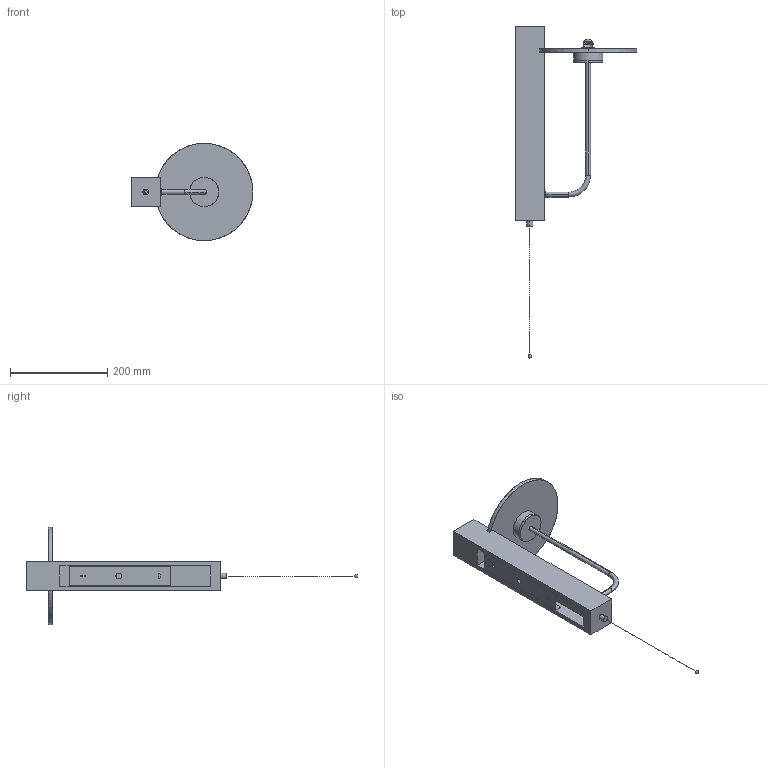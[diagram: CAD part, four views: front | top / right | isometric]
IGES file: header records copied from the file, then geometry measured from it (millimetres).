
Start section: SolidWorks IGES file using analytic representation for surfaces
Global section: file name: F:\燠隴矨\3D\2025-11\Aura Arm Wall Lamp-D20xH40cm.IGS,15; native system: HSolidWorks 2022; preprocessor: SolidWorks 2022; author: MyPC; date: 251104.091740; units: millimetre
Bounding box: 250 x 682.25 x 200 mm (x, y, z)
Surface area: 251780.9 mm2 (no closed solid volume)
Topology: 0 solids, 0 shells, 202 faces, 1520 edges, 1387 vertices
Faces by surface type: revolution 157, bspline 45
